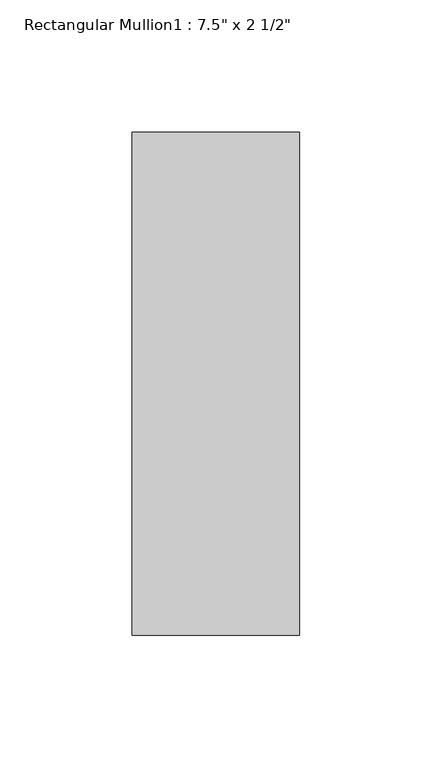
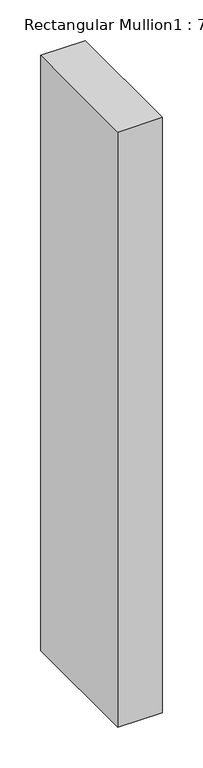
"""IFC4 building model written with IfcOpenShell, lengths in millimetres: member geometry."""

from ifc_helpers import new_model, si_unit, frame, origin, place, context, project, spatial, polyline, outline, extrude, source, transform, mapped, element, save


def member_72e4dfb6(model_context):
    return source(origin(), model_context, "Body", "SweptSolid", [
        extrude(outline(polyline([(-63.5, 165.1), (0.0, 165.1), (0.0, -25.4), (-63.5, -25.4), (-63.5, 165.1)])), frame((0.0, 0.0, -896.2862222), z_axis=(0.0, 0.0, 1.0), x_axis=(1.0, 0.0, 0.0)), (0.0, 0.0, 1.0), 896.2862222),
    ])


if __name__ == "__main__":
    model = new_model("IFC4")
    model_context = context("Model", 3, world=origin())
    ifc_project = project(units=[si_unit("LENGTHUNIT", "METRE", prefix="MILLI")], contexts=[model_context])
    site = spatial("IfcSite", under=ifc_project)
    building = spatial("IfcBuilding", under=site)
    placement = place(None, origin())
    member_shape = member_72e4dfb6(model_context)
    element("IfcMember", 1, ObjectType="Rectangular Mullion1 : 7.5\" x 2 1/2\"", at=placement, inside=building, context=model_context, shape_type="MappedRepresentation", body=[
        mapped(member_shape, transform((0.0, 0.0, 0.0), x_axis=(1.0, 0.0, 0.0), y_axis=(0.0, 1.0, 0.0), z_axis=(0.0, 0.0, 1.0))),
    ])
    save(model, "model.ifc")
